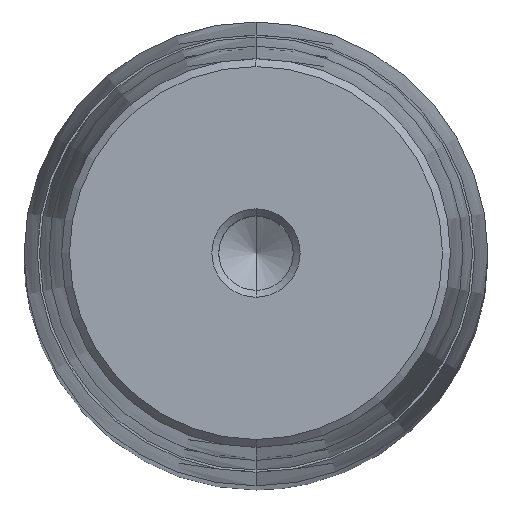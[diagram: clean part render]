
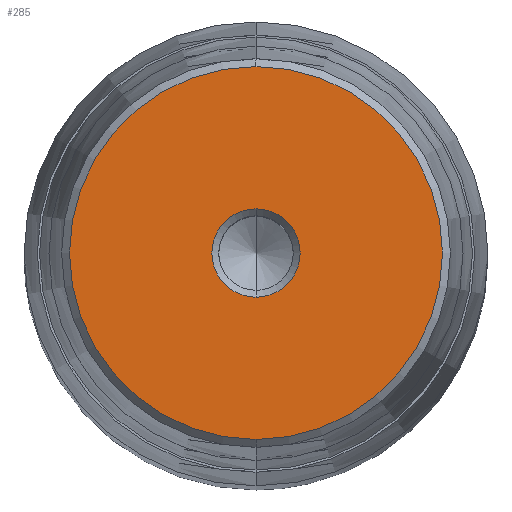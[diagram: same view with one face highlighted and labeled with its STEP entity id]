
A CAD part, top view. The second image highlights one B-rep face of the part: STEP entity #285.
In plain terms, the highlighted planar face has unit normal (0, 0, 1).
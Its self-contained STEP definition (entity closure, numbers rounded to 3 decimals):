
#164=CARTESIAN_POINT('Axis2P3D Location',(0.,0.,69.)) ;
#168=CARTESIAN_POINT('Vertex',(6.,0.,69.)) ;
#170=CARTESIAN_POINT('Vertex',(0.,-6.,69.)) ;
#173=CARTESIAN_POINT('Axis2P3D Location',(0.,0.,69.)) ;
#177=CARTESIAN_POINT('Vertex',(0.,6.,69.)) ;
#228=CARTESIAN_POINT('Axis2P3D Location',(0.,6.,69.)) ;
#233=CARTESIAN_POINT('Axis2P3D Location',(0.,0.,69.)) ;
#237=CARTESIAN_POINT('Vertex',(0.,25.325,69.)) ;
#239=CARTESIAN_POINT('Vertex',(25.325,0.,69.)) ;
#242=CARTESIAN_POINT('Axis2P3D Location',(0.,0.,69.)) ;
#246=CARTESIAN_POINT('Vertex',(-25.325,0.,69.)) ;
#249=CARTESIAN_POINT('Axis2P3D Location',(0.,0.,69.)) ;
#253=CARTESIAN_POINT('Vertex',(0.,-25.325,69.)) ;
#256=CARTESIAN_POINT('Axis2P3D Location',(0.,0.,69.)) ;
#267=CARTESIAN_POINT('Axis2P3D Location',(0.,0.,69.)) ;
#271=CARTESIAN_POINT('Vertex',(-6.,0.,69.)) ;
#274=CARTESIAN_POINT('Axis2P3D Location',(0.,0.,69.)) ;
#165=DIRECTION('Axis2P3D Direction',(0.,0.,1.)) ;
#174=DIRECTION('Axis2P3D Direction',(0.,0.,1.)) ;
#229=DIRECTION('Axis2P3D Direction',(-0.,0.,-1.)) ;
#230=DIRECTION('Axis2P3D XDirection',(0.,1.,0.)) ;
#234=DIRECTION('Axis2P3D Direction',(-0.,0.,-1.)) ;
#243=DIRECTION('Axis2P3D Direction',(-0.,0.,-1.)) ;
#250=DIRECTION('Axis2P3D Direction',(-0.,0.,-1.)) ;
#257=DIRECTION('Axis2P3D Direction',(-0.,0.,-1.)) ;
#268=DIRECTION('Axis2P3D Direction',(-0.,0.,-1.)) ;
#275=DIRECTION('Axis2P3D Direction',(-0.,0.,-1.)) ;
#166=AXIS2_PLACEMENT_3D('Circle Axis2P3D',#164,#165,$) ;
#175=AXIS2_PLACEMENT_3D('Circle Axis2P3D',#173,#174,$) ;
#231=AXIS2_PLACEMENT_3D('Plane Axis2P3D',#228,#229,#230) ;
#235=AXIS2_PLACEMENT_3D('Circle Axis2P3D',#233,#234,$) ;
#244=AXIS2_PLACEMENT_3D('Circle Axis2P3D',#242,#243,$) ;
#251=AXIS2_PLACEMENT_3D('Circle Axis2P3D',#249,#250,$) ;
#258=AXIS2_PLACEMENT_3D('Circle Axis2P3D',#256,#257,$) ;
#269=AXIS2_PLACEMENT_3D('Circle Axis2P3D',#267,#268,$) ;
#276=AXIS2_PLACEMENT_3D('Circle Axis2P3D',#274,#275,$) ;
#262=ORIENTED_EDGE('',*,*,#241,.F.) ;
#263=ORIENTED_EDGE('',*,*,#248,.F.) ;
#264=ORIENTED_EDGE('',*,*,#255,.F.) ;
#265=ORIENTED_EDGE('',*,*,#260,.F.) ;
#280=ORIENTED_EDGE('',*,*,#172,.T.) ;
#281=ORIENTED_EDGE('',*,*,#273,.T.) ;
#282=ORIENTED_EDGE('',*,*,#278,.T.) ;
#283=ORIENTED_EDGE('',*,*,#179,.T.) ;
#284=FACE_BOUND('',#279,.T.) ;
#285=ADVANCED_FACE('722-63x355x406',(#266,#284),#232,.F.) ;
#167=CIRCLE('generated circle',#166,6.) ;
#176=CIRCLE('generated circle',#175,6.) ;
#236=CIRCLE('generated circle',#235,25.325) ;
#245=CIRCLE('generated circle',#244,25.325) ;
#252=CIRCLE('generated circle',#251,25.325) ;
#259=CIRCLE('generated circle',#258,25.325) ;
#270=CIRCLE('generated circle',#269,6.) ;
#277=CIRCLE('generated circle',#276,6.) ;
#172=EDGE_CURVE('',#169,#171,#167,.F.) ;
#179=EDGE_CURVE('',#178,#169,#176,.F.) ;
#241=EDGE_CURVE('',#238,#240,#236,.T.) ;
#248=EDGE_CURVE('',#247,#238,#245,.T.) ;
#255=EDGE_CURVE('',#254,#247,#252,.T.) ;
#260=EDGE_CURVE('',#240,#254,#259,.T.) ;
#273=EDGE_CURVE('',#171,#272,#270,.T.) ;
#278=EDGE_CURVE('',#272,#178,#277,.T.) ;
#261=EDGE_LOOP('',(#262,#263,#264,#265)) ;
#279=EDGE_LOOP('',(#280,#281,#282,#283)) ;
#266=FACE_OUTER_BOUND('',#261,.T.) ;
#232=PLANE('Plane',#231) ;
#169=VERTEX_POINT('',#168) ;
#171=VERTEX_POINT('',#170) ;
#178=VERTEX_POINT('',#177) ;
#238=VERTEX_POINT('',#237) ;
#240=VERTEX_POINT('',#239) ;
#247=VERTEX_POINT('',#246) ;
#254=VERTEX_POINT('',#253) ;
#272=VERTEX_POINT('',#271) ;
